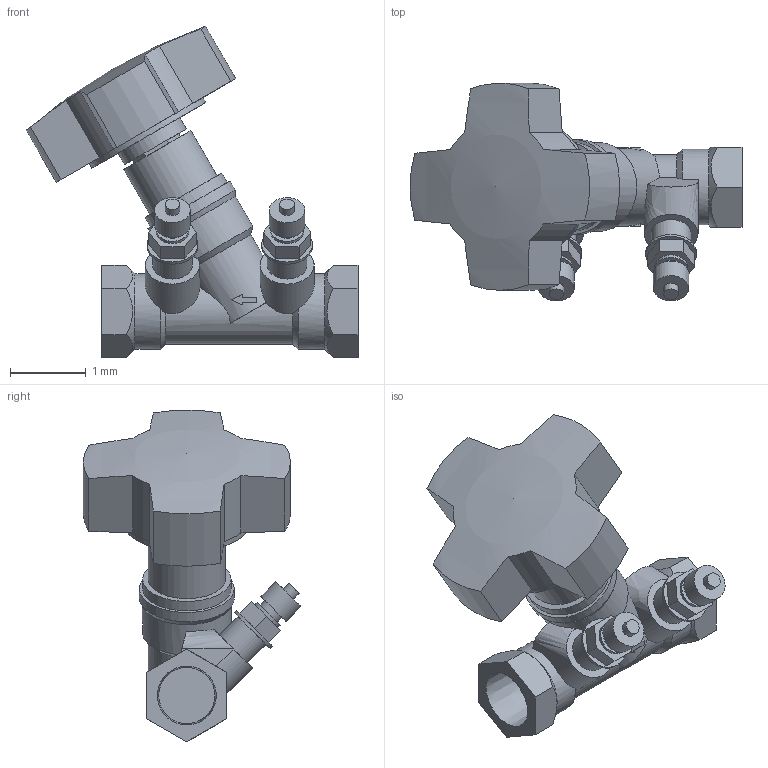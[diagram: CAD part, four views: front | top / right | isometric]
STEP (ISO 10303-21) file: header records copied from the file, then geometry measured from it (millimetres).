
FILE_DESCRIPTION(('Open CASCADE Model'),'2;1');
FILE_NAME('Open CASCADE Shape Model','2021-09-29T13:58:11',('Author'),( 'Open CASCADE'),'Open CASCADE STEP processor 7.3','Open CASCADE 7.3' ,'Unknown');
FILE_SCHEMA(('AUTOMOTIVE_DESIGN { 1 0 10303 214 1 1 1 1 }'));
Length unit declared in the file: millimetre
Products named in the file (1): Open CASCADE STEP translator 7.3 1
Bounding box: 4.39 x 2.88 x 4.38 mm (x, y, z)
Volume: 8.9 mm3; surface area: 45.9 mm2
Topology: 1 solids, 1 shells, 146 faces, 359 edges, 237 vertices
Faces by surface type: plane 99, cylinder 35, cone 8, extrusion 3, sphere 1
Full cylindrical faces by diameter (mm): 0.195 x2, 0.32 x2, 0.43 x2, 0.47 x2, 0.525 x2, 0.67 x2, 0.94 x1, 1 x2, 1.023 x1, 1.171 x1, 1.175 x1, 1.255 x1, 1.737 x1
Entity records: 11670 total; most frequent: CARTESIAN_POINT 4733, DIRECTION 1241, ORIENTED_EDGE 716, PCURVE 716, DEFINITIONAL_REPRESENTATION 716, VECTOR 647, LINE 644, EDGE_CURVE 358
